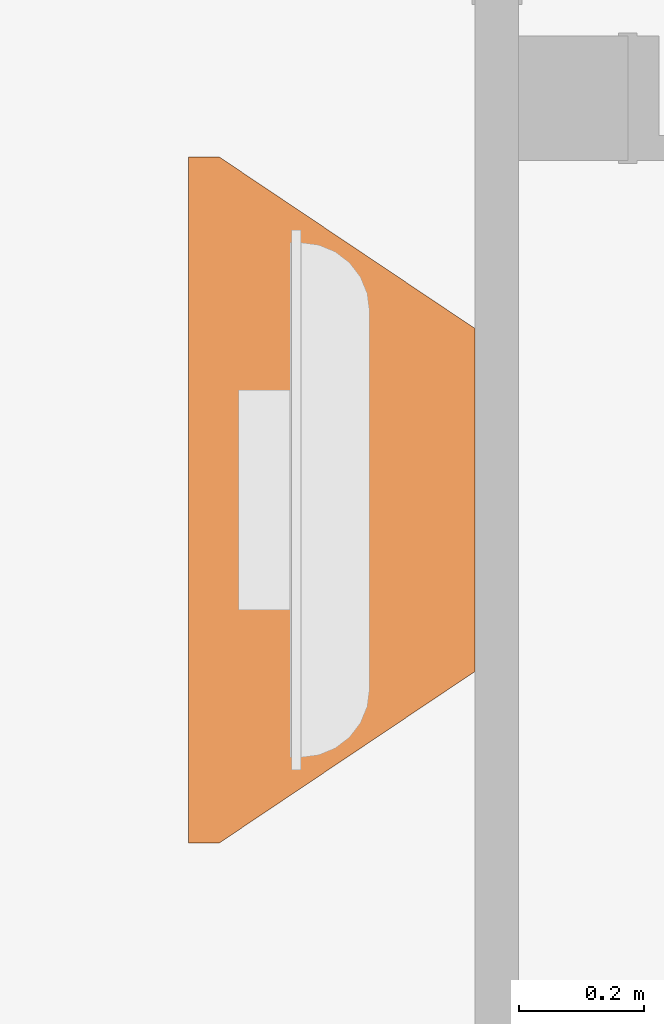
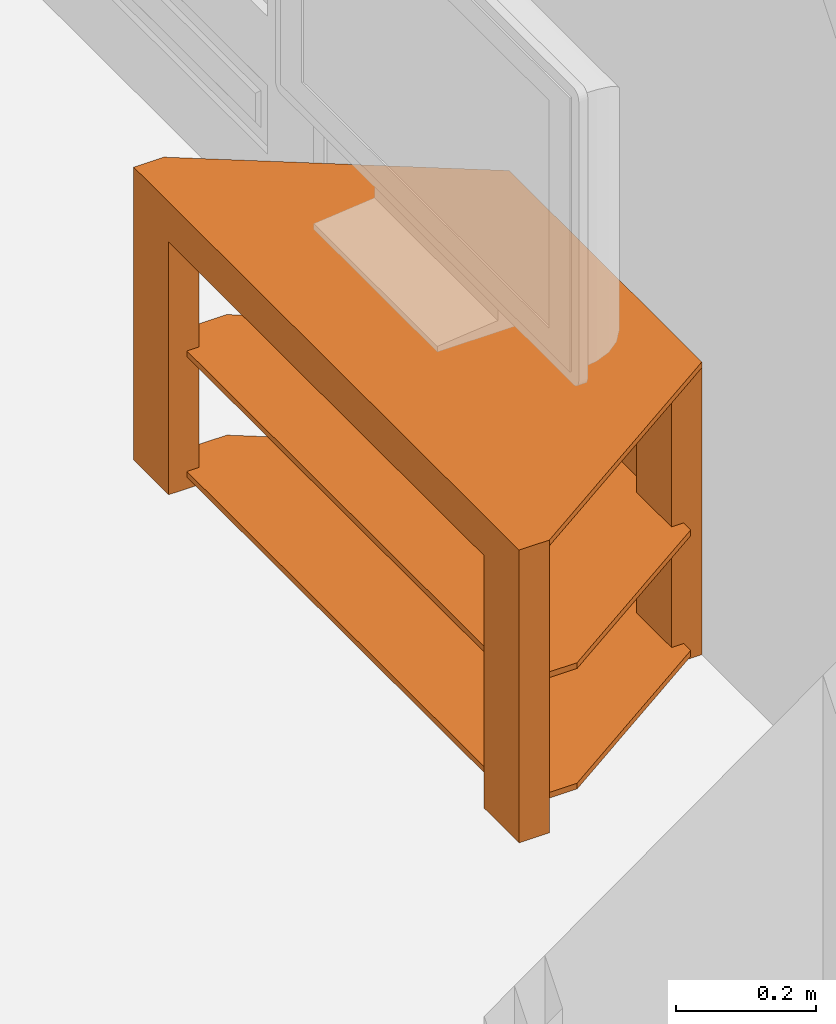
# One storey, part 14 of 15: 1 proxy.
"""IFC2X3 building model written with IfcOpenShell, lengths in metres."""

import ifcopenshell
import ifcopenshell.guid

model = None  # the IFC model being written
_history = None  # IfcOwnerHistory: only IFC2X3 demands one
_inside = {}  # id of a spatial element -> (the spatial element, [elements in it])
_under = {}  # id of a project, library or spatial element -> (it, [spatial elements below it])
_declared = {}  # id of a project -> (the project, [libraries it declares])
_typed = {}  # id of a type object -> (the type object, [elements of that type])
_made_of = {}  # id of a material, layer set ... -> (it, [elements and type objects made of it])


def new_model(schema):
    """Start an empty IFC model of exactly this schema.

    Asked for "IFC4X3", IfcOpenShell would pick the latest addendum, in which some entities
    have other attributes; the version numbers below select the first issue.
    IFC2X3 requires an IfcOwnerHistory on every rooted entity: one is made here for all.
    """
    global model, _history
    if schema == "IFC4X3":
        model = ifcopenshell.file(schema_version=(4, 3, 0, 0))
    else:
        model = ifcopenshell.file(schema=schema)
    _inside.clear()
    _under.clear()
    _declared.clear()
    _typed.clear()
    _made_of.clear()
    _history = None
    if model.schema == "IFC2X3":
        org = make("IfcOrganization", Name="unknown")
        user = make(
            "IfcPersonAndOrganization",
            ThePerson=make("IfcPerson", FamilyName="unknown"),
            TheOrganization=org,
        )
        app = make(
            "IfcApplication",
            ApplicationDeveloper=org,
            Version="unknown",
            ApplicationFullName="unknown",
            ApplicationIdentifier="unknown",
        )
        _history = make(
            "IfcOwnerHistory",
            OwningUser=user,
            OwningApplication=app,
            ChangeAction="ADDED",
            CreationDate=0,
        )
    return model


def make(cls, **values):
    """One entity of the class cls with the attributes given. An attribute that is None is left unset."""
    return model.create_entity(
        cls, **{name: value for name, value in values.items() if value is not None}
    )


def entity(cls, *values):
    """Any entity or typed value of the class cls, its attributes in the order of the schema. None: left unset."""
    e = model.create_entity(cls)
    for i, value in enumerate(values):
        if value is not None:
            e[i] = value
    return e


def rooted(cls, **values):
    """An entity with a GlobalId (a new one), such as an element, a storey or a relation."""
    return make(cls, GlobalId=ifcopenshell.guid.new(), OwnerHistory=_history, **values)


def si_unit(unit_type, name, prefix=None):
    """IfcSIUnit, for example si_unit("LENGTHUNIT", "METRE", prefix="MILLI")."""
    return make("IfcSIUnit", UnitType=unit_type, Prefix=prefix, Name=name)


def converted_unit(unit_type, name, factor, base, dimensions=None, offset=None):
    """IfcConversionBasedUnit, such as the inch: factor (a typed value) times the base unit."""
    return make(
        "IfcConversionBasedUnit"
        if offset is None
        else "IfcConversionBasedUnitWithOffset",
        ConversionOffset=offset,
        Dimensions=None
        if dimensions is None
        else entity("IfcDimensionalExponents", *dimensions),
        UnitType=unit_type,
        Name=name,
        ConversionFactor=make(
            "IfcMeasureWithUnit", ValueComponent=factor, UnitComponent=base
        ),
    )


def derived_unit(unit_type, elements):
    """IfcDerivedUnit: a product of units, each with its exponent."""
    return make(
        "IfcDerivedUnit",
        Elements=[
            make("IfcDerivedUnitElement", Unit=unit, Exponent=power)
            for unit, power in elements
        ],
        UnitType=unit_type,
    )


def assignment(units):
    """IfcUnitAssignment: the units of a project."""
    return None if units is None else make("IfcUnitAssignment", Units=units)


def point(xyz):
    """IfcCartesianPoint."""
    return None if xyz is None else make("IfcCartesianPoint", Coordinates=xyz)


def direction(xyz):
    """IfcDirection."""
    return None if xyz is None else make("IfcDirection", DirectionRatios=xyz)


def frame(location, z_axis=None, x_axis=None):
    """IfcAxis2Placement3D, a coordinate frame: its origin and axes. An axis left out is left unset."""
    return make(
        "IfcAxis2Placement3D",
        Location=point(location),
        Axis=direction(z_axis),
        RefDirection=direction(x_axis),
    )


def origin():
    """The frame at (0, 0, 0) with its axes left unset."""
    return frame((0.0, 0.0, 0.0))


def place(relative_to, where):
    """IfcLocalPlacement: puts the frame where relative to a parent placement (None: the world)."""
    return make(
        "IfcLocalPlacement", PlacementRelTo=relative_to, RelativePlacement=where
    )


def context(
    kind, dimensions, precision=None, world=None, true_north=None, identifier=None
):
    """IfcGeometricRepresentationContext, for example the 3D "Model" context."""
    return make(
        "IfcGeometricRepresentationContext",
        ContextIdentifier=identifier,
        ContextType=kind,
        CoordinateSpaceDimension=dimensions,
        Precision=precision,
        WorldCoordinateSystem=world,
        TrueNorth=true_north,
    )


def subcontext(parent, identifier, kind, view, scale=None):
    """IfcGeometricRepresentationSubContext, for example "Body" below "Model"."""
    return make(
        "IfcGeometricRepresentationSubContext",
        ContextIdentifier=identifier,
        ContextType=kind,
        ParentContext=parent,
        TargetScale=scale,
        TargetView=view,
    )


def project(units=None, contexts=None):
    """IfcProject with its units and contexts."""
    return rooted(
        "IfcProject",
        Name="project",
        RepresentationContexts=contexts,
        UnitsInContext=assignment(units),
    )


def spatial(cls, under=None, at=None, **own):
    """A site, building, storey or space (cls), placed at a placement, below another one or the project."""
    s = rooted(cls, ObjectPlacement=at, **own)
    if under is not None:
        _under.setdefault(under.id(), (under, []))[1].append(s)
    return s


def faces_of(points, faces, orient=None, outer=None):
    """IfcFace entities. A face is a list of loops; a loop is a list of indices into points, from 0.

    orient and outer hold one flag for each loop. By default every Orientation is true, the
    first loop of a face is its IfcFaceOuterBound and the others are IfcFaceBound.
    """
    made = []
    for i, loops in enumerate(faces):
        bounds = []
        for j, loop in enumerate(loops):
            is_outer = j == 0 if outer is None else outer[i][j]
            bounds.append(
                make(
                    "IfcFaceOuterBound" if is_outer else "IfcFaceBound",
                    Bound=make("IfcPolyLoop", Polygon=[points[k] for k in loop]),
                    Orientation=True if orient is None else orient[i][j],
                )
            )
        made.append(make("IfcFace", Bounds=bounds))
    return made


def faceted_brep(points, faces, orient=None, outer=None, voids=None):
    """IfcFacetedBrep: a solid bounded by flat faces; with voids (closed shells), ...WithVoids."""
    shared = [point(p) for p in points]
    hull = make("IfcClosedShell", CfsFaces=faces_of(shared, faces, orient, outer))
    if voids is None:
        return make("IfcFacetedBrep", Outer=hull)
    return make(
        "IfcFacetedBrepWithVoids",
        Outer=hull,
        Voids=[
            make(cls, CfsFaces=faces_of(shared, fs, o, b)) for cls, fs, o, b in voids
        ],
    )


def shape(context_of_items, identifier, shape_type, items):
    """IfcShapeRepresentation: the items that make up one representation, for example the "Body"."""
    return make(
        "IfcShapeRepresentation",
        ContextOfItems=context_of_items,
        RepresentationIdentifier=identifier,
        RepresentationType=shape_type,
        Items=items,
    )


def source(mapping_origin, context_of_items, identifier, shape_type, items):
    """IfcRepresentationMap: a shape defined once, which mapped items show again and again."""
    return make(
        "IfcRepresentationMap",
        MappingOrigin=mapping_origin,
        MappedRepresentation=shape(context_of_items, identifier, shape_type, items),
    )


def transform(
    local_origin,
    x_axis=None,
    y_axis=None,
    z_axis=None,
    scale=None,
    scale2=None,
    scale3=None,
    uniform=True,
):
    """IfcCartesianTransformationOperator3D, or its non-uniform kind. x_axis, y_axis, z_axis: its Axis1, 2, 3."""
    if uniform:
        return make(
            "IfcCartesianTransformationOperator3D",
            Axis1=direction(x_axis),
            Axis2=direction(y_axis),
            LocalOrigin=point(local_origin),
            Scale=scale,
            Axis3=direction(z_axis),
        )
    return make(
        "IfcCartesianTransformationOperator3DnonUniform",
        Axis1=direction(x_axis),
        Axis2=direction(y_axis),
        LocalOrigin=point(local_origin),
        Scale=scale,
        Axis3=direction(z_axis),
        Scale2=scale2,
        Scale3=scale3,
    )


def mapped(mapping_source, mapping_target):
    """IfcMappedItem: shows the shape of a source again, moved by a transform."""
    return make(
        "IfcMappedItem", MappingSource=mapping_source, MappingTarget=mapping_target
    )


def material(Name=None, Category=None):
    """IfcMaterial."""
    return make("IfcMaterial", Name=Name, Category=Category)


def material_list(materials):
    """IfcMaterialList."""
    return make("IfcMaterialList", Materials=materials)


def made_of(thing, what):
    """Note that an element or type object is made of a material, layer set ...; save() writes the relation."""
    if what is not None:
        _made_of.setdefault(what.id(), (what, []))[1].append(thing)
    return thing


def type_object(cls, material=None, **own):
    """A type object (cls), such as IfcWallType, which elements share."""
    return made_of(rooted(cls, **own), material)


def type_shapes(of_type, sources):
    """Give a type object the sources (RepresentationMaps) that its elements show as mapped items."""
    of_type.RepresentationMaps = sources


def element(
    cls,
    number,
    at=None,
    inside=None,
    cuts=None,
    type_object=None,
    material=None,
    context=None,
    identifier="Body",
    shape_type=None,
    held_by="IfcProductDefinitionShape",
    body=None,
    shapes=None,
    **own,
):
    """One element of the class cls, such as IfcWall. Its Tag is "e" and its number.

    at: its placement. inside: the storey or other place that contains it. cuts: it is an
    opening in that element (IfcRelVoidsElement). A single representation is given by context,
    identifier, shape_type and body (its items); several are given by shapes. held_by: the class
    of the entity that holds the representations. save() writes the other relations.
    """
    e = rooted(cls, Tag="e%d" % number, ObjectPlacement=at, **own)
    if body is not None:
        shapes = [shape(context, identifier, shape_type, body)]
    if shapes is not None:
        e.Representation = make(held_by, Representations=shapes)
    if inside is not None:
        _inside.setdefault(inside.id(), (inside, []))[1].append(e)
    if cuts is not None:
        rooted(
            "IfcRelVoidsElement", RelatingBuildingElement=cuts, RelatedOpeningElement=e
        )
    if type_object is not None:
        _typed.setdefault(type_object.id(), (type_object, []))[1].append(e)
    return made_of(e, material)


def aggregate(whole, parts):
    """IfcRelAggregates: a whole, such as a stair, and the parts it consists of."""
    return rooted("IfcRelAggregates", RelatingObject=whole, RelatedObjects=parts)


def save(model, path):
    """Write the relations noted so far, then the file.

    IfcRelAggregates (storeys below a building ...), IfcRelContainedInSpatialStructure (elements
    in a storey), IfcRelDefinesByType, IfcRelAssociatesMaterial and IfcRelDeclares: one each for
    every whole, place, type object, material and project.
    """
    for whole, parts in _under.values():
        aggregate(whole, parts)
    for where, things in _inside.values():
        rooted(
            "IfcRelContainedInSpatialStructure",
            RelatedElements=things,
            RelatingStructure=where,
        )
    for kind, things in _typed.values():
        rooted("IfcRelDefinesByType", RelatedObjects=things, RelatingType=kind)
    for what, things in _made_of.values():
        rooted("IfcRelAssociatesMaterial", RelatedObjects=things, RelatingMaterial=what)
    for by, libraries in _declared.values():
        rooted("IfcRelDeclares", RelatingContext=by, RelatedDefinitions=libraries)
    model.write(path)


model = new_model("IFC2X3")

# Units and contexts
model_context = context("Model", 3, precision=1e-05, world=origin(), true_north=direction((6.12303176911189e-17, 1.0)))
body_context = subcontext(model_context, "Body", "Model", "MODEL_VIEW")
ifc_project = project(units=[si_unit("LENGTHUNIT", "METRE"), si_unit("AREAUNIT", "SQUARE_METRE"), si_unit("VOLUMEUNIT", "CUBIC_METRE"), converted_unit("PLANEANGLEUNIT", "DEGREE", entity("IfcRatioMeasure", 0.0174532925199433), si_unit("PLANEANGLEUNIT", "RADIAN"), dimensions=[0, 0, 0, 0, 0, 0, 0]), si_unit("MASSUNIT", "GRAM", prefix="KILO"), derived_unit("MASSDENSITYUNIT", [(si_unit("MASSUNIT", "GRAM", prefix="KILO"), 1), (si_unit("LENGTHUNIT", "METRE"), -3)]), derived_unit("MOMENTOFINERTIAUNIT", [(si_unit("LENGTHUNIT", "METRE"), 4)]), si_unit("TIMEUNIT", "SECOND"), si_unit("FREQUENCYUNIT", "HERTZ"), si_unit("THERMODYNAMICTEMPERATUREUNIT", "DEGREE_CELSIUS"), derived_unit("THERMALTRANSMITTANCEUNIT", [(si_unit("MASSUNIT", "GRAM", prefix="KILO"), 1), (si_unit("THERMODYNAMICTEMPERATUREUNIT", "KELVIN"), -1), (si_unit("TIMEUNIT", "SECOND"), -3)]), derived_unit("VOLUMETRICFLOWRATEUNIT", [(si_unit("LENGTHUNIT", "METRE"), 3), (si_unit("TIMEUNIT", "SECOND"), -1)]), si_unit("ELECTRICCURRENTUNIT", "AMPERE"), si_unit("ELECTRICVOLTAGEUNIT", "VOLT"), si_unit("POWERUNIT", "WATT"), si_unit("FORCEUNIT", "NEWTON", prefix="KILO"), si_unit("ILLUMINANCEUNIT", "LUX"), si_unit("LUMINOUSFLUXUNIT", "LUMEN"), si_unit("LUMINOUSINTENSITYUNIT", "CANDELA"), derived_unit("USERDEFINED", [(si_unit("MASSUNIT", "GRAM", prefix="KILO"), -1), (si_unit("LENGTHUNIT", "METRE"), -2), (si_unit("TIMEUNIT", "SECOND"), 3), (si_unit("LUMINOUSFLUXUNIT", "LUMEN"), 1)]), derived_unit("LINEARVELOCITYUNIT", [(si_unit("LENGTHUNIT", "METRE"), 1), (si_unit("TIMEUNIT", "SECOND"), -1)]), si_unit("PRESSUREUNIT", "PASCAL"), derived_unit("USERDEFINED", [(si_unit("LENGTHUNIT", "METRE"), -2), (si_unit("MASSUNIT", "GRAM", prefix="KILO"), 1), (si_unit("TIMEUNIT", "SECOND"), -2)]), derived_unit("LINEARFORCEUNIT", [(si_unit("MASSUNIT", "GRAM", prefix="KILO"), 1), (si_unit("LENGTHUNIT", "METRE"), 1), (si_unit("TIMEUNIT", "SECOND"), -2), (si_unit("LENGTHUNIT", "METRE"), -1)]), derived_unit("PLANARFORCEUNIT", [(si_unit("MASSUNIT", "GRAM", prefix="KILO"), 1), (si_unit("LENGTHUNIT", "METRE"), 1), (si_unit("TIMEUNIT", "SECOND"), -2), (si_unit("LENGTHUNIT", "METRE"), -2)])], contexts=[model_context])

# Site, building, storey, space
site_placement = place(None, origin())
site = spatial("IfcSite", under=ifc_project, at=site_placement, Name="Surface", CompositionType="ELEMENT")
building_placement = place(site_placement, origin())
building = spatial("IfcBuilding", under=site, at=building_placement, CompositionType="ELEMENT")
storey_placement = place(building_placement, frame((0.0, 0.0, 2.65)))
storey = spatial("IfcBuildingStorey", under=building, at=storey_placement, Name="Niveau étage", CompositionType="ELEMENT", Elevation=2.65)
space_placement = place(storey_placement, origin())
space = spatial("IfcSpace", under=storey, at=space_placement, Name="5", CompositionType="ELEMENT", InteriorOrExteriorSpace="INTERNAL")

# Proxy
ifc_material_1 = material(Name="Verre - Meuble TV")
ifc_material_2 = material(Name="Bois - Mélaminé rouge")
ifc_material_3 = material(Name="Bois - Mélaminé gris")
ifc_material_list_1 = material_list([ifc_material_1, ifc_material_2, ifc_material_3])
ifc_material_list_2 = material_list([ifc_material_2, ifc_material_1])
building_element_proxy_type = type_object("IfcBuildingElementProxyType", Name="Meuble TV:Meuble TV", PredefinedType="NOTDEFINED", material=ifc_material_list_2)
shared_shape = source(origin(), body_context, "Body", "Brep", [
    faceted_brep([(0.420309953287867, -0.03, 0.0199999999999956), (0.625188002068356, -0.33545454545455, 0.0199999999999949), (0.625188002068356, -0.430000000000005, 0.0199999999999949), (-0.374811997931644, -0.430000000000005, 0.0199999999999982), (-0.374811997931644, -0.335454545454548, 0.0199999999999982), (-0.169933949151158, -0.0300000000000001, 0.0199999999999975), (0.420309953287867, -0.03, 0.0299999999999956), (-0.169933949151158, -0.0300000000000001, 0.0299999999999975), (-0.374811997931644, -0.335454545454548, 0.0299999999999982), (-0.374811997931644, -0.430000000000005, 0.0299999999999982), (0.625188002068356, -0.430000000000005, 0.0299999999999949), (0.625188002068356, -0.33545454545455, 0.0299999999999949)], [[[0, 1, 2, 3, 4, 5]], [[6, 7, 8, 9, 10, 11]], [[1, 0, 6, 11]], [[2, 1, 11, 10]], [[3, 2, 10, 9]], [[4, 3, 9, 8]], [[5, 4, 8, 7]], [[0, 5, 7, 6]]]),
    faceted_brep([(0.420309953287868, -0.03, 0.229999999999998), (0.625188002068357, -0.33545454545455, 0.229999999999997), (0.625188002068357, -0.430000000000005, 0.229999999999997), (-0.374811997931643, -0.430000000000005, 0.23), (-0.374811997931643, -0.335454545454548, 0.23), (-0.169933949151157, -0.03, 0.23), (0.420309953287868, -0.03, 0.239999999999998), (-0.169933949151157, -0.03, 0.24), (-0.374811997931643, -0.335454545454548, 0.24), (-0.374811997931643, -0.430000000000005, 0.24), (0.625188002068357, -0.430000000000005, 0.239999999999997), (0.625188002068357, -0.33545454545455, 0.239999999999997)], [[[0, 1, 2, 3, 4, 5]], [[6, 7, 8, 9, 10, 11]], [[1, 0, 6, 11]], [[2, 1, 11, 10]], [[3, 2, 10, 9]], [[4, 3, 9, 8]], [[5, 4, 8, 7]], [[0, 5, 7, 6]]]),
    faceted_brep([(0.400188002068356, 0.0, 0.499999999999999), (0.675188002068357, -0.410000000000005, 0.499999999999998), (0.675188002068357, -0.460000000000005, 0.499999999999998), (-0.424811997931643, -0.460000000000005, 0.500000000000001), (-0.424811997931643, -0.410000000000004, 0.500000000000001), (-0.149811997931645, 0.0, 0.500000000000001), (0.400188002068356, 0.0, 0.509999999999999), (-0.149811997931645, 0.0, 0.510000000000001), (-0.424811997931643, -0.410000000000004, 0.510000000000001), (-0.424811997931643, -0.460000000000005, 0.510000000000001), (0.675188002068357, -0.460000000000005, 0.509999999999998), (0.675188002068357, -0.410000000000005, 0.509999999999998)], [[[0, 1, 2, 3, 4, 5]], [[6, 7, 8, 9, 10, 11]], [[1, 0, 6, 11]], [[2, 1, 11, 10]], [[3, 2, 10, 9]], [[4, 3, 9, 8]], [[5, 4, 8, 7]], [[0, 5, 7, 6]]]),
    faceted_brep([(0.400188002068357, -0.05, 0.5), (0.400188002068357, 0.0, 0.5), (0.300188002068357, 0.0, 0.5), (0.300188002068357, -0.05, 0.5), (0.400188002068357, -0.05, 0.0), (0.300188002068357, -0.05, 0.0), (0.300188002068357, 0.0, 0.0), (0.400188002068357, 0.0, 0.0), (0.400188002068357, -0.05, 0.239999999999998), (0.400188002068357, -0.0299999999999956, 0.239999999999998), (0.400188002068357, -0.0299999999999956, 0.229999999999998), (0.400188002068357, -0.05, 0.229999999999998), (0.400188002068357, -0.05, 0.0299999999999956), (0.400188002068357, -0.03, 0.0299999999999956), (0.400188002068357, -0.03, 0.0199999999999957), (0.400188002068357, -0.05, 0.0199999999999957), (0.300188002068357, -0.05, 0.019999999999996), (0.300188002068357, -0.03, 0.019999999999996), (0.300188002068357, -0.03, 0.029999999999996), (0.300188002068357, -0.05, 0.029999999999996), (0.300188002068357, -0.05, 0.229999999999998), (0.300188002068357, -0.0299999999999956, 0.229999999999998), (0.300188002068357, -0.0299999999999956, 0.239999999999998), (0.300188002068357, -0.05, 0.239999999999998)], [[[0, 1, 2, 3]], [[4, 5, 6, 7]], [[1, 0, 8, 9, 10, 11, 12, 13, 14, 15, 4, 7]], [[2, 1, 7, 6]], [[3, 2, 6, 5, 16, 17, 18, 19, 20, 21, 22, 23]], [[0, 3, 23, 8]], [[22, 9, 8, 23]], [[9, 22, 21, 10]], [[18, 13, 12, 19]], [[13, 18, 17, 14]], [[14, 17, 16, 15]], [[10, 21, 20, 11]], [[11, 20, 19, 12]], [[5, 4, 15, 16]]]),
    faceted_brep([(-0.0498119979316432, 0.0, 0.5), (-0.0498119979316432, -0.05, 0.5), (-0.0498119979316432, -0.05, 0.239999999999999), (-0.0498119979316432, -0.0299999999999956, 0.239999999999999), (-0.0498119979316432, -0.0299999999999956, 0.229999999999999), (-0.0498119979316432, -0.05, 0.229999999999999), (-0.0498119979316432, -0.05, 0.0299999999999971), (-0.0498119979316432, -0.03, 0.0299999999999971), (-0.0498119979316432, -0.03, 0.0199999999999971), (-0.0498119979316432, -0.05, 0.0199999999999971), (-0.0498119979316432, -0.05, 0.0), (-0.0498119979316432, 0.0, 0.0), (-0.149811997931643, 0.0, 0.5), (-0.149811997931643, 0.0, 0.0), (-0.149811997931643, -0.05, 0.5), (-0.149811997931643, -0.05, 0.0), (-0.149811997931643, -0.05, 0.0199999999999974), (-0.149811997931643, -0.03, 0.0199999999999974), (-0.149811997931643, -0.03, 0.0299999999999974), (-0.149811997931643, -0.05, 0.0299999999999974), (-0.149811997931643, -0.05, 0.23), (-0.149811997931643, -0.0299999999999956, 0.23), (-0.149811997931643, -0.0299999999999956, 0.24), (-0.149811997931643, -0.05, 0.24)], [[[0, 1, 2, 3, 4, 5, 6, 7, 8, 9, 10, 11]], [[12, 0, 11, 13]], [[14, 12, 13, 15, 16, 17, 18, 19, 20, 21, 22, 23]], [[1, 14, 23, 2]], [[4, 21, 20, 5]], [[8, 17, 16, 9]], [[7, 18, 17, 8]], [[18, 7, 6, 19]], [[3, 22, 21, 4]], [[22, 3, 2, 23]], [[5, 20, 19, 6]], [[15, 10, 9, 16]], [[10, 15, 13, 11]], [[1, 0, 12, 14]]]),
    faceted_brep([(-0.424811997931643, -0.459999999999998, 0.0), (-0.324811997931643, -0.459999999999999, 0.0), (-0.324811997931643, -0.459999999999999, 0.439999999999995), (0.575188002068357, -0.460000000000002, 0.439999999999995), (0.575188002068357, -0.460000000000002, 0.0), (0.675188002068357, -0.460000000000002, 0.0), (0.675188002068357, -0.460000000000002, 0.499999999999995), (-0.424811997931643, -0.459999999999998, 0.499999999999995), (-0.424811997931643, -0.409999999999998, 0.0), (-0.424811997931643, -0.409999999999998, 0.499999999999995), (0.675188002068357, -0.410000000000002, 0.499999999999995), (0.675188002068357, -0.410000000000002, 0.0), (0.575188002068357, -0.410000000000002, 0.0), (0.575188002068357, -0.410000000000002, 0.0199999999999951), (0.625188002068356, -0.410000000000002, 0.0199999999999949), (0.625188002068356, -0.410000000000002, 0.0299999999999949), (0.575188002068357, -0.410000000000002, 0.0299999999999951), (0.575188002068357, -0.410000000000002, 0.229999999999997), (0.625188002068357, -0.410000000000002, 0.229999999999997), (0.625188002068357, -0.410000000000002, 0.239999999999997), (0.575188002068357, -0.410000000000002, 0.239999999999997), (0.575188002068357, -0.410000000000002, 0.439999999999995), (-0.324811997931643, -0.409999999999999, 0.439999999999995), (-0.324811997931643, -0.409999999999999, 0.24), (-0.374811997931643, -0.409999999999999, 0.24), (-0.374811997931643, -0.409999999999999, 0.23), (-0.324811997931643, -0.409999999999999, 0.23), (-0.324811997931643, -0.409999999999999, 0.029999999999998), (-0.374811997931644, -0.409999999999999, 0.0299999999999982), (-0.374811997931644, -0.409999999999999, 0.0199999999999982), (-0.324811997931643, -0.409999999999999, 0.019999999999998), (-0.324811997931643, -0.409999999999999, 0.0), (-0.324811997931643, -0.430000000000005, 0.019999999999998), (-0.324811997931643, -0.430000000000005, 0.029999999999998), (-0.324811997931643, -0.430000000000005, 0.23), (-0.324811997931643, -0.430000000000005, 0.24), (0.575188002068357, -0.430000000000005, 0.239999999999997), (0.575188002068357, -0.430000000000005, 0.229999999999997), (0.575188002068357, -0.430000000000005, 0.0299999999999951), (0.575188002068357, -0.430000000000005, 0.0199999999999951), (0.625188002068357, -0.430000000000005, 0.239999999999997), (-0.374811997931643, -0.430000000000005, 0.23), (-0.374811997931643, -0.430000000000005, 0.24), (0.625188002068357, -0.430000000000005, 0.229999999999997), (0.625188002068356, -0.430000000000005, 0.0299999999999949), (-0.374811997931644, -0.430000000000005, 0.0199999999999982), (-0.374811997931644, -0.430000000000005, 0.0299999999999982), (0.625188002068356, -0.430000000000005, 0.0199999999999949)], [[[0, 1, 2, 3, 4, 5, 6, 7]], [[8, 9, 10, 11, 12, 13, 14, 15, 16, 17, 18, 19, 20, 21, 22, 23, 24, 25, 26, 27, 28, 29, 30, 31]], [[1, 0, 8, 31]], [[2, 1, 31, 30, 32, 33, 27, 26, 34, 35, 23, 22]], [[3, 2, 22, 21]], [[4, 3, 21, 20, 36, 37, 17, 16, 38, 39, 13, 12]], [[5, 4, 12, 11]], [[6, 5, 11, 10]], [[7, 6, 10, 9]], [[0, 7, 9, 8]], [[19, 40, 36, 20]], [[25, 41, 34, 26]], [[42, 41, 25, 24]], [[41, 42, 35, 34]], [[43, 40, 19, 18]], [[15, 44, 38, 16]], [[29, 45, 32, 30]], [[46, 45, 29, 28]], [[45, 46, 33, 32]], [[47, 44, 15, 14]], [[44, 47, 39, 38]], [[39, 47, 14, 13]], [[33, 46, 28, 27]], [[40, 43, 37, 36]], [[37, 43, 18, 17]], [[35, 42, 24, 23]]]),
    faceted_brep([(0.300188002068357, -0.03, 0.0), (0.157262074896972, -0.03, 0.0442647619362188), (0.156013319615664, -0.03, 0.0412500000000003), (0.157688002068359, -0.03, 0.0475000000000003), (0.15402683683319, -0.03, 0.0386611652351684), (0.151438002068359, -0.03, 0.0366746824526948), (0.14842324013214, -0.03, 0.0354259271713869), (0.145188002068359, -0.03, 0.0350000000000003), (0.105205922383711, -0.03, 0.0350000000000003), (0.157262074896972, -0.03, 0.0507352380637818), (0.156013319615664, -0.03, 0.0537500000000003), (0.15402683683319, -0.03, 0.0563388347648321), (0.154008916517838, -0.03, 0.248661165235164), (-0.0498119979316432, -0.03, 0.0), (0.155995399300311, -0.03, 0.251249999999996), (0.157244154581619, -0.03, 0.254264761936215), (0.157670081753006, -0.03, 0.257499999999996), (0.300188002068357, -0.03, 0.499999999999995), (0.157244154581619, -0.03, 0.260735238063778), (0.155995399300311, -0.03, 0.263749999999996), (0.154008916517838, -0.03, 0.266338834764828), (0.151420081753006, -0.03, 0.268325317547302), (0.148405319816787, -0.03, 0.26957407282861), (0.145170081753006, -0.03, 0.269999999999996), (0.105205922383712, -0.03, 0.269999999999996), (-0.0498119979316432, -0.03, 0.499999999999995), (0.0927059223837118, -0.03, 0.257499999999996), (0.10197068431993, -0.03, 0.26957407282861), (0.0989559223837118, -0.03, 0.268325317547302), (0.0963670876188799, -0.03, 0.266338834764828), (0.0943806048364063, -0.03, 0.263749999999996), (0.0931318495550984, -0.03, 0.260735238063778), (0.0931318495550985, -0.03, 0.254264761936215), (0.151438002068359, -0.03, 0.0583253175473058), (0.151420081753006, -0.03, 0.246674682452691), (0.14842324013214, -0.03, 0.0595740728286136), (0.148405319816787, -0.03, 0.245425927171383), (0.145188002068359, -0.03, 0.0600000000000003), (0.145170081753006, -0.03, 0.244999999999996), (0.105205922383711, -0.03, 0.0600000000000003), (0.105205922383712, -0.03, 0.244999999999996), (0.10197068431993, -0.03, 0.245425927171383), (0.10197068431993, -0.03, 0.0595740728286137), (0.0989559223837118, -0.03, 0.246674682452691), (0.0989559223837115, -0.03, 0.0583253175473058), (0.09636708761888, -0.03, 0.248661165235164), (0.0963670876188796, -0.03, 0.0563388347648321), (0.0943806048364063, -0.03, 0.251249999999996), (0.10197068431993, -0.03, 0.035425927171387), (0.0989559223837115, -0.03, 0.0366746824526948), (0.0963670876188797, -0.03, 0.0386611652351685), (0.094380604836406, -0.03, 0.0412500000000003), (0.0931318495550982, -0.03, 0.0442647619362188), (0.0927059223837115, -0.03, 0.0475000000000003), (0.0931318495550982, -0.03, 0.0507352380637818), (0.094380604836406, -0.03, 0.0537500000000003), (0.300188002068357, -0.02, 0.499999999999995), (0.157244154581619, -0.02, 0.260735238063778), (0.155995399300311, -0.02, 0.263749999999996), (0.157670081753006, -0.02, 0.257499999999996), (0.154008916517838, -0.02, 0.266338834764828), (0.151420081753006, -0.02, 0.268325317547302), (0.148405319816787, -0.02, 0.26957407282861), (0.145170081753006, -0.02, 0.269999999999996), (0.105205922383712, -0.02, 0.269999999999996), (0.300188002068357, -0.02, 0.0), (-0.0498119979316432, -0.02, 0.499999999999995), (0.157244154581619, -0.02, 0.254264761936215), (0.155995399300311, -0.02, 0.251249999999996), (0.154008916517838, -0.02, 0.248661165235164), (0.15402683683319, -0.02, 0.0563388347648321), (0.156013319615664, -0.02, 0.0537500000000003), (0.157262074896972, -0.02, 0.0507352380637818), (0.157688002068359, -0.02, 0.0475000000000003), (0.157262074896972, -0.02, 0.0442647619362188), (0.156013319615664, -0.02, 0.0412500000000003), (0.15402683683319, -0.02, 0.0386611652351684), (0.151438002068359, -0.02, 0.0366746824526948), (0.14842324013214, -0.02, 0.0354259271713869), (0.145188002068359, -0.02, 0.0350000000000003), (0.105205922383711, -0.02, 0.0350000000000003), (-0.0498119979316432, -0.02, 0.0), (0.0927059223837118, -0.02, 0.257499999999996), (0.0931318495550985, -0.02, 0.254264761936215), (0.0943806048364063, -0.02, 0.251249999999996), (0.09636708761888, -0.02, 0.248661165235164), (0.0963670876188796, -0.02, 0.0563388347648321), (0.094380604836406, -0.02, 0.0537500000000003), (0.0931318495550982, -0.02, 0.0507352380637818), (0.0927059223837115, -0.02, 0.0475000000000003), (0.10197068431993, -0.02, 0.035425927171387), (0.0989559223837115, -0.02, 0.0366746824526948), (0.0963670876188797, -0.02, 0.0386611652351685), (0.094380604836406, -0.02, 0.0412500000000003), (0.0931318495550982, -0.02, 0.0442647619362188), (0.151438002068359, -0.02, 0.0583253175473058), (0.151420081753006, -0.02, 0.246674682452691), (0.14842324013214, -0.02, 0.0595740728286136), (0.148405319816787, -0.02, 0.245425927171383), (0.145188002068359, -0.02, 0.0600000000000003), (0.145170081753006, -0.02, 0.244999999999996), (0.105205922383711, -0.02, 0.0600000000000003), (0.105205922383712, -0.02, 0.244999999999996), (0.10197068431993, -0.02, 0.245425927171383), (0.10197068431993, -0.02, 0.0595740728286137), (0.0989559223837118, -0.02, 0.246674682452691), (0.0989559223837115, -0.02, 0.0583253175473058), (0.10197068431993, -0.02, 0.26957407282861), (0.0989559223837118, -0.02, 0.268325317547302), (0.0963670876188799, -0.02, 0.266338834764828), (0.0943806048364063, -0.02, 0.263749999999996), (0.0931318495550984, -0.02, 0.260735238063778)], [[[0, 1, 2]], [[1, 0, 3]], [[0, 2, 4]], [[4, 5, 0]], [[6, 0, 5]], [[6, 7, 0]], [[0, 7, 8]], [[9, 3, 0]], [[10, 9, 0]], [[10, 0, 11]], [[12, 11, 0]], [[8, 13, 0]], [[14, 12, 0]], [[14, 0, 15]], [[15, 0, 16]], [[17, 16, 0]], [[17, 18, 16]], [[18, 17, 19]], [[19, 17, 20]], [[21, 20, 17]], [[21, 17, 22]], [[23, 22, 17]], [[17, 24, 23]], [[24, 17, 25]], [[26, 25, 13]], [[27, 24, 25]], [[28, 27, 25]], [[25, 29, 28]], [[29, 25, 30]], [[31, 30, 25]], [[31, 25, 26]], [[26, 13, 32]], [[12, 33, 11]], [[12, 34, 33]], [[35, 33, 34]], [[36, 35, 34]], [[37, 35, 36]], [[36, 38, 37]], [[37, 38, 39]], [[38, 40, 39]], [[40, 41, 39]], [[42, 39, 41]], [[41, 43, 42]], [[43, 44, 42]], [[43, 45, 44]], [[45, 46, 44]], [[46, 45, 13]], [[45, 47, 13]], [[32, 13, 47]], [[8, 48, 13]], [[48, 49, 13]], [[50, 13, 49]], [[13, 50, 51]], [[51, 52, 13]], [[13, 52, 53]], [[53, 54, 13]], [[55, 46, 13]], [[54, 55, 13]], [[56, 57, 58]], [[57, 56, 59]], [[56, 58, 60]], [[60, 61, 56]], [[62, 56, 61]], [[62, 63, 56]], [[56, 63, 64]], [[65, 59, 56]], [[64, 66, 56]], [[65, 67, 59]], [[65, 68, 67]], [[68, 65, 69]], [[65, 70, 69]], [[71, 70, 65]], [[72, 71, 65]], [[73, 72, 65]], [[65, 74, 73]], [[74, 65, 75]], [[75, 65, 76]], [[77, 76, 65]], [[77, 65, 78]], [[79, 78, 65]], [[65, 80, 79]], [[80, 65, 81]], [[66, 82, 81]], [[81, 82, 83]], [[81, 83, 84]], [[84, 85, 81]], [[86, 81, 85]], [[86, 87, 81]], [[87, 88, 81]], [[88, 89, 81]], [[90, 80, 81]], [[91, 90, 81]], [[81, 92, 91]], [[92, 81, 93]], [[94, 93, 81]], [[94, 81, 89]], [[95, 69, 70]], [[96, 69, 95]], [[96, 95, 97]], [[96, 97, 98]], [[97, 99, 98]], [[100, 98, 99]], [[99, 101, 100]], [[100, 101, 102]], [[103, 102, 101]], [[101, 104, 103]], [[105, 103, 104]], [[106, 105, 104]], [[105, 106, 85]], [[86, 85, 106]], [[64, 107, 66]], [[107, 108, 66]], [[109, 66, 108]], [[66, 109, 110]], [[110, 111, 66]], [[66, 111, 82]], [[17, 0, 65, 56]], [[25, 17, 56, 66]], [[13, 25, 66, 81]], [[0, 13, 81, 65]], [[40, 38, 100, 102]], [[40, 102, 103, 41]], [[41, 103, 105, 43]], [[47, 45, 85, 84]], [[105, 85, 45, 43]], [[32, 47, 84, 83]], [[83, 82, 26, 32]], [[31, 111, 110, 30]], [[30, 110, 109, 29]], [[27, 28, 108, 107]], [[109, 108, 28, 29]], [[24, 27, 107, 64]], [[31, 26, 82, 111]], [[23, 24, 64, 63]], [[23, 63, 62, 22]], [[22, 62, 61, 21]], [[19, 20, 60, 58]], [[61, 60, 20, 21]], [[18, 19, 58, 57]], [[57, 59, 16, 18]], [[15, 67, 68, 14]], [[14, 68, 69, 12]], [[36, 34, 96, 98]], [[69, 96, 34, 12]], [[38, 36, 98, 100]], [[15, 16, 59, 67]], [[8, 7, 79, 80]], [[8, 80, 90, 48]], [[48, 90, 91, 49]], [[51, 50, 92, 93]], [[91, 92, 50, 49]], [[52, 51, 93, 94]], [[94, 89, 53, 52]], [[54, 88, 87, 55]], [[55, 87, 86, 46]], [[42, 44, 106, 104]], [[86, 106, 44, 46]], [[39, 42, 104, 101]], [[54, 53, 89, 88]], [[37, 39, 101, 99]], [[37, 99, 97, 35]], [[35, 97, 95, 33]], [[10, 11, 70, 71]], [[95, 70, 11, 33]], [[9, 10, 71, 72]], [[72, 73, 3, 9]], [[1, 74, 75, 2]], [[2, 75, 76, 4]], [[6, 5, 77, 78]], [[76, 77, 5, 4]], [[7, 6, 78, 79]], [[1, 3, 73, 74]]]),
])
type_shapes(building_element_proxy_type, [shared_shape])
proxy_placement = place(space_placement, frame((5.88939607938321, 2.43492283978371, 0.0), z_axis=(0.0, 0.0, 1.0), x_axis=(0.0, -1.0, 0.0)))
element("IfcBuildingElementProxy", 1, at=proxy_placement, inside=space, type_object=building_element_proxy_type, material=ifc_material_list_1, Name="Meuble TV:Meuble TV", ObjectType="Meuble TV:Meuble TV", context=body_context, shape_type="MappedRepresentation", body=[
    mapped(shared_shape, transform((0.0, 0.0, 0.0), scale=1.0)),
])

save(model, "model.ifc")
